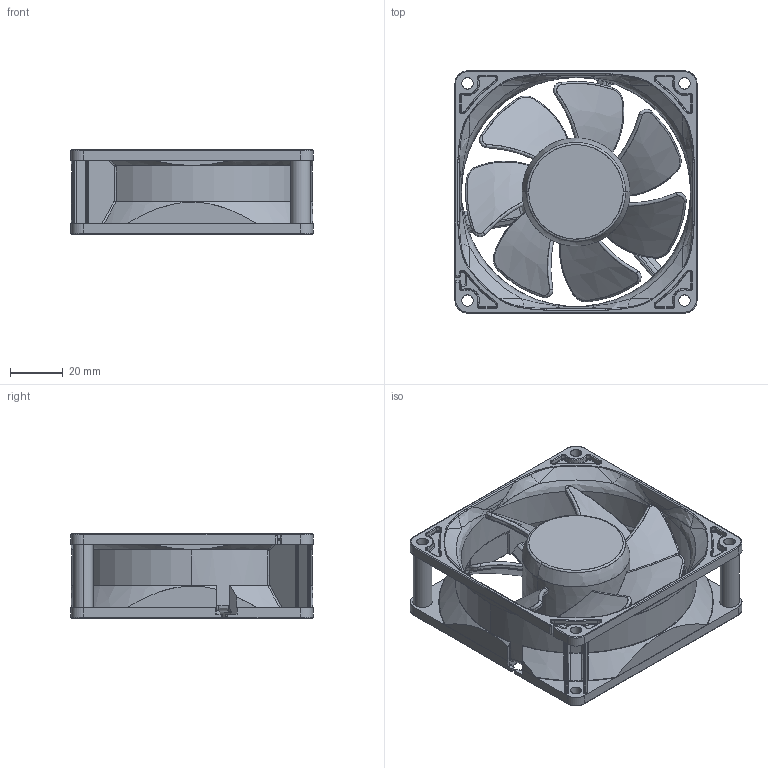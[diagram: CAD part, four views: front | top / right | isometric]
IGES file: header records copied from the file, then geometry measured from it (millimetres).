
Start section: SolidWorks IGES file using analytic representation for surfaces
Global section: file name: C:\Users\Midorikawa-tatsuya\Desktop\3D作成\9G 92x32\リブ付き\9232G_RIBBED.IGS; native system: SolidWorks 2016; preprocessor: SolidWorks 2016; author: Midorikawa-Tatsuya; date: 170207.202347; units: millimetre
Bounding box: 92 x 92 x 32 mm (x, y, z)
Surface area: 47340.2 mm2 (no closed solid volume)
Topology: 0 solids, 0 shells, 806 faces, 7664 edges, 7605 vertices
Faces by surface type: bspline 549, revolution 257
